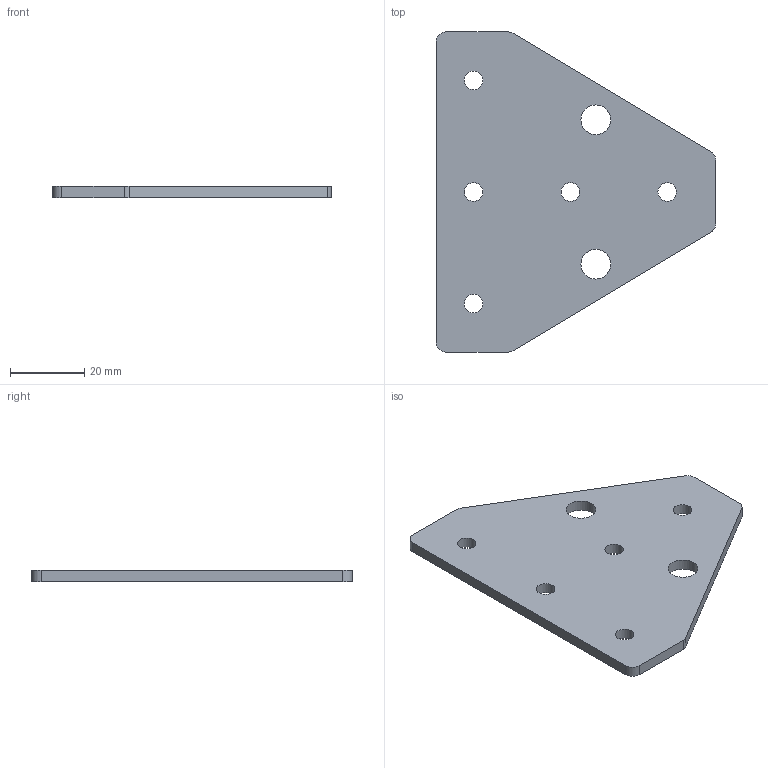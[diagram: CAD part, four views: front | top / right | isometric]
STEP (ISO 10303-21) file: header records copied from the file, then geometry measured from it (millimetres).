
FILE_DESCRIPTION(('STEP AP203'), '1');
FILE_NAME('À00804.32025 _ Ò-ñîåäèíèòåëü', '', ('UNSPECIFIED'), ('UNSPECIFIED'), 'C3D Converter', 'C3D Toolkit', '');
FILE_SCHEMA(('CONFIG_CONTROL_DESIGN'));
Length unit declared in the file: millimetre
Products named in the file (1): А00804.32025
Bounding box: 75 x 86 x 3 mm (x, y, z)
Volume: 13298.7 mm3; surface area: 10066.9 mm2
Topology: 1 solids, 1 shells, 21 faces, 57 edges, 38 vertices
Faces by surface type: cylinder 13, plane 8
Full cylindrical faces by diameter (mm): 5 x5, 8 x2
Entity records: 873 total; most frequent: DIRECTION 120, CARTESIAN_POINT 110, ORIENTED_EDGE 100, EDGE_CURVE 50, AXIS2_PLACEMENT_3D 48, EDGE_LOOP 42, VERTEX_POINT 38, FACE_BOUND 28
